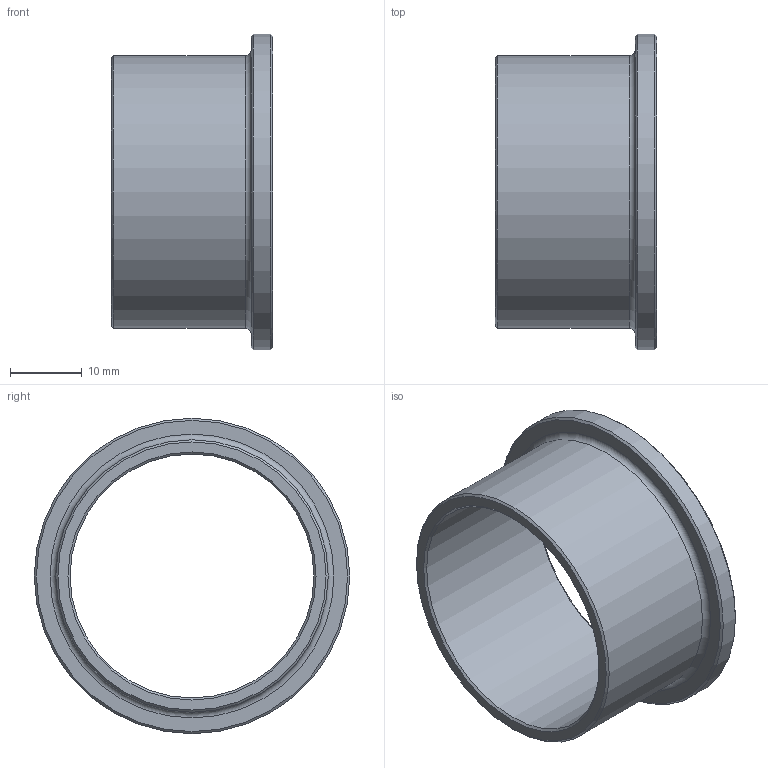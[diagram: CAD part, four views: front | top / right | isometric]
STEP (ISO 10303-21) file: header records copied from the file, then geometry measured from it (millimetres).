
FILE_DESCRIPTION(/* description */ (''),/* implementation_level */ '2;1');
FILE_NAME(/* name */ 'C:\Users\cad\Desktop\Zeichnungen neu von Ralph\3D_Kupplung_R666-SE\3D_R666-SE-38-DN40_17113348.stp',/* time_stamp */ '2021-06-18T08:29:05+02:00',/* author */ ('cad'),/* organization */ (''),/* preprocessor_version */ 'ST-DEVELOPER v18.1',/* originating_system */ 'Autodesk Inventor 2022',/* authorisation */ '');
FILE_SCHEMA (('AUTOMOTIVE_DESIGN { 1 0 10303 214 3 1 1 }'));
Length unit declared in the file: millimetre
Products named in the file (1): 3D_R666-SE-38-DN40_17113348
Bounding box: 22.5 x 44 x 44 mm (x, y, z)
Volume: 6237.8 mm3; surface area: 6223.2 mm2
Topology: 1 solids, 1 shells, 12 faces, 27 edges, 18 vertices
Faces by surface type: cone 5, cylinder 3, plane 3, torus 1
Full cylindrical faces by diameter (mm): 34 x1, 38 x1, 44 x1
Entity records: 395 total; most frequent: DIRECTION 72, CARTESIAN_POINT 58, ORIENTED_EDGE 54, AXIS2_PLACEMENT_3D 32, EDGE_CURVE 27, CIRCLE 19, VERTEX_POINT 18, EDGE_LOOP 15
